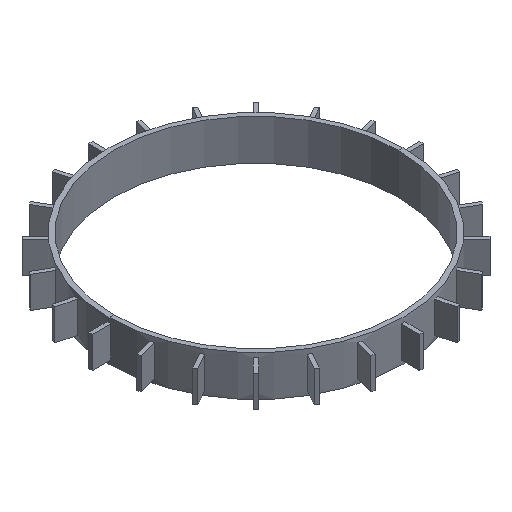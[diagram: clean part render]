
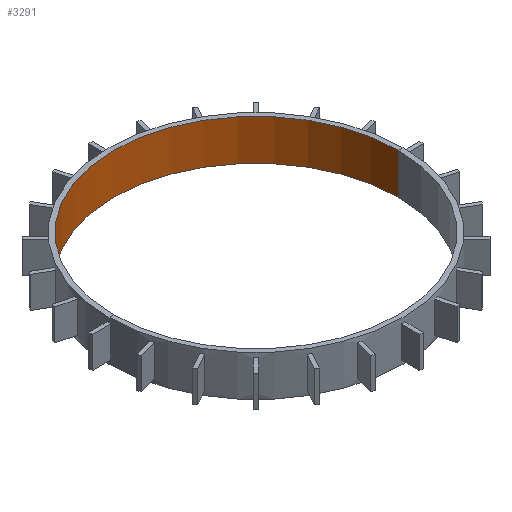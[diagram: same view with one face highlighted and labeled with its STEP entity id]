
A CAD part, isometric view. The second image highlights one B-rep face of the part: STEP entity #3291.
In plain terms, the highlighted cylindrical face has radius 45.5 mm (diameter 91 mm), a partial arc.
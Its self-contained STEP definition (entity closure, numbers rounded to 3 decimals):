
#1=CARTESIAN_POINT('',(45.5,0.0,27.0));
#2=CARTESIAN_POINT('',(-45.5,0.0,27.0));
#7=CARTESIAN_POINT('',(45.5,0.0,40.0));
#8=CARTESIAN_POINT('',(-45.5,0.0,40.0));
#217=CARTESIAN_POINT('',(0.0,0.0,27.0));
#218=DIRECTION('',(0.0,0.0,1.0));
#219=DIRECTION('',(1.0,0.0,0.0));
#220=AXIS2_PLACEMENT_3D('',#217,#218,#219);
#221=CIRCLE('',#220,45.5);
#222=TRIMMED_CURVE('',#221,(#1),(#2),.T.,.CARTESIAN.);
#614=CARTESIAN_POINT('',(0.0,0.0,40.0));
#615=DIRECTION('',(0.0,0.0,1.0));
#616=DIRECTION('',(1.0,0.0,0.0));
#617=AXIS2_PLACEMENT_3D('',#614,#615,#616);
#618=CIRCLE('',#617,45.5);
#619=TRIMMED_CURVE('',#618,(#7),(#8),.T.,.CARTESIAN.);
#629=DIRECTION('',(0.0,0.0,1.0));
#630=VECTOR('',#629,1.0);
#631=LINE('',#2,#630);
#632=DIRECTION('',(0.0,0.0,1.0));
#633=VECTOR('',#632,1.0);
#634=LINE('',#1,#633);
#1241=CARTESIAN_POINT('',(0.0,0.0,0.0));
#1242=DIRECTION('',(0.0,0.0,1.0));
#1243=DIRECTION('',(0.0,-1.0,0.0));
#1244=AXIS2_PLACEMENT_3D('',#1241,#1242,#1243);
#1245=CYLINDRICAL_SURFACE('',#1244,45.5);
#1851=VERTEX_POINT('',#1);
#1852=VERTEX_POINT('',#2);
#1857=VERTEX_POINT('',#7);
#1858=VERTEX_POINT('',#8);
#2058=EDGE_CURVE('',#1851,#1852,#222,.T.);
#2168=EDGE_CURVE('',#1857,#1858,#619,.T.);
#2171=EDGE_CURVE('',#1852,#1858,#631,.T.);
#2172=EDGE_CURVE('',#1851,#1857,#634,.T.);
#2493=ORIENTED_EDGE('',*,*,#2171,.F.);
#2494=ORIENTED_EDGE('',*,*,#2058,.F.);
#2495=ORIENTED_EDGE('',*,*,#2172,.T.);
#2496=ORIENTED_EDGE('',*,*,#2168,.T.);
#3013=EDGE_LOOP('',(#2493,#2494,#2495,#2496));
#3163=FACE_OUTER_BOUND('',#3013,.T.);
#3291=ADVANCED_FACE('',(#3163),#1245,.F.);
